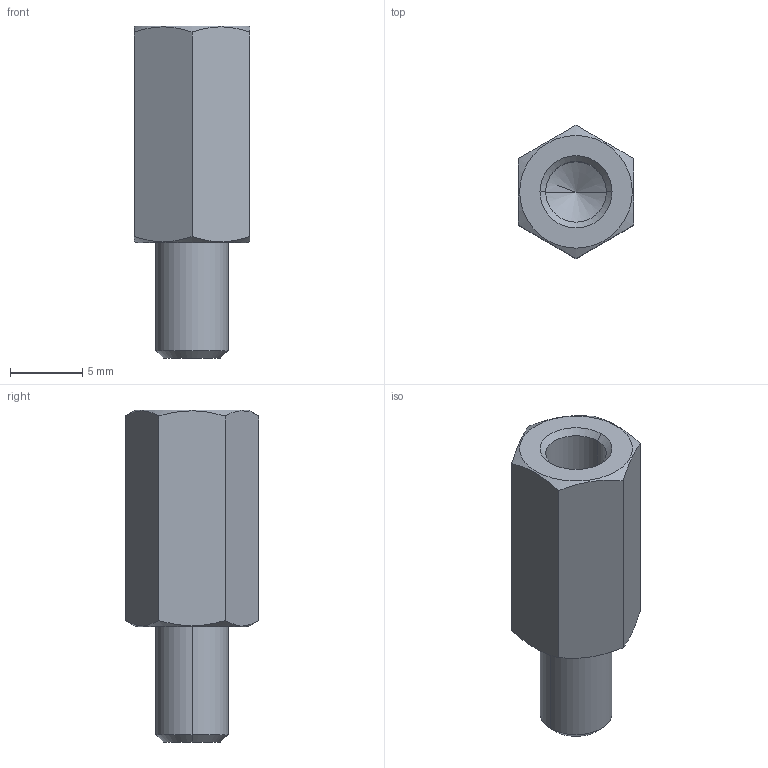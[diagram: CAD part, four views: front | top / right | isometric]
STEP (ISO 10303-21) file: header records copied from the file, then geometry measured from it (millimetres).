
FILE_DESCRIPTION (( 'STEP AP214' ), '1' );
FILE_NAME ('6220-NI-M5-15-B.step', '2019-02-25T07:20:52', ( 'user' ), ( '' ), 'SwSTEP 2.0', 'SolidWorks 2017', '' );
FILE_SCHEMA (( 'AUTOMOTIVE_DESIGN' ));
Length unit declared in the file: millimetre
Products named in the file (1): 6220-NI-M5-15-B
Bounding box: 8 x 9.24 x 23 mm (x, y, z)
Volume: 781.1 mm3; surface area: 826.4 mm2
Topology: 1 solids, 1 shells, 23 faces, 54 edges, 33 vertices
Faces by surface type: cone 10, plane 9, cylinder 4
Entity records: 762 total; most frequent: CARTESIAN_POINT 205, ORIENTED_EDGE 104, DIRECTION 100, EDGE_CURVE 52, AXIS2_PLACEMENT_3D 40, VERTEX_POINT 33, EDGE_LOOP 25, ADVANCED_FACE 23
